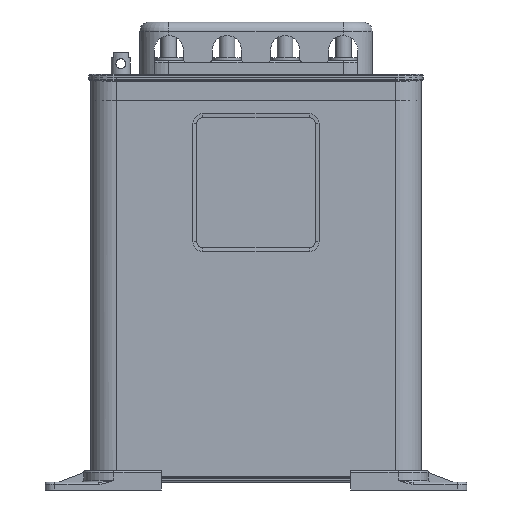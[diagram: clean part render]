
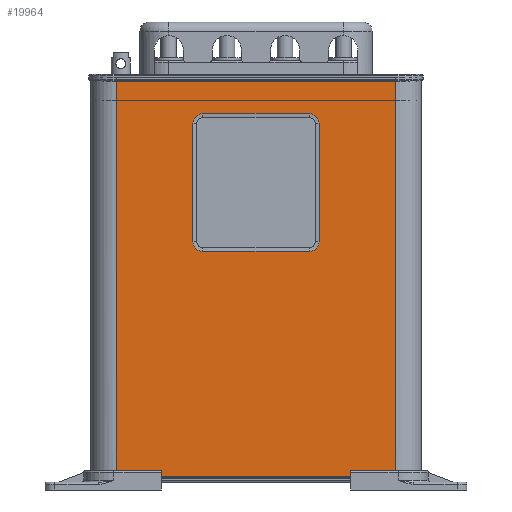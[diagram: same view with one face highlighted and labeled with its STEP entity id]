
A CAD part, front view. The second image highlights one B-rep face of the part: STEP entity #19964.
In plain terms, the highlighted planar face has unit normal (0, -1, 0).
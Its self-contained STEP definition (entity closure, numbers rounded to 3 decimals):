
#947=DIRECTION('',(-1.,0.,0.));
#948=VECTOR('',#947,144.);
#949=CARTESIAN_POINT('',(72.,-44.28,102.4));
#950=LINE('',#949,#948);
#951=DIRECTION('',(-1.,0.,0.));
#952=VECTOR('',#951,23.22);
#953=CARTESIAN_POINT('',(72.,-44.28,-99.28));
#954=LINE('',#953,#952);
#955=DIRECTION('',(0.,0.,1.));
#956=VECTOR('',#955,1.5);
#957=CARTESIAN_POINT('',(48.78,-44.28,-100.78));
#958=LINE('',#957,#956);
#959=DIRECTION('',(0.707,0.,-0.707));
#960=VECTOR('',#959,1.414);
#961=CARTESIAN_POINT('',(48.78,-44.28,-100.78));
#962=LINE('',#961,#960);
#963=DIRECTION('',(-1.,0.,0.));
#964=VECTOR('',#963,22.22);
#965=CARTESIAN_POINT('',(72.,-44.28,-101.78));
#966=LINE('',#965,#964);
#967=DIRECTION('',(1.,0.,0.));
#968=VECTOR('',#967,144.);
#969=CARTESIAN_POINT('',(-72.,-44.28,-102.68));
#970=LINE('',#969,#968);
#971=DIRECTION('',(0.,0.,1.));
#972=VECTOR('',#971,0.9);
#973=CARTESIAN_POINT('',(-72.,-44.28,-102.68));
#974=LINE('',#973,#972);
#975=DIRECTION('',(1.,0.,0.));
#976=VECTOR('',#975,22.22);
#977=CARTESIAN_POINT('',(-72.,-44.28,-101.78));
#978=LINE('',#977,#976);
#979=DIRECTION('',(-0.707,0.,-0.707));
#980=VECTOR('',#979,1.414);
#981=CARTESIAN_POINT('',(-48.78,-44.28,-100.78));
#982=LINE('',#981,#980);
#983=DIRECTION('',(0.,0.,1.));
#984=VECTOR('',#983,1.5);
#985=CARTESIAN_POINT('',(-48.78,-44.28,-100.78));
#986=LINE('',#985,#984);
#987=DIRECTION('',(1.,0.,0.));
#988=VECTOR('',#987,23.22);
#989=CARTESIAN_POINT('',(-72.,-44.28,-99.28));
#990=LINE('',#989,#988);
#991=DIRECTION('',(0.,0.,1.));
#992=VECTOR('',#991,201.68);
#993=CARTESIAN_POINT('',(-72.,-44.28,-99.28));
#994=LINE('',#993,#992);
#995=DIRECTION('',(-1.,0.,0.));
#996=VECTOR('',#995,55.);
#997=CARTESIAN_POINT('',(27.5,-44.28,84.72));
#998=LINE('',#997,#996);
#999=CARTESIAN_POINT('',(-27.5,-44.28,79.72));
#1000=DIRECTION('',(0.,-1.,0.));
#1001=DIRECTION('',(0.,0.,1.));
#1002=AXIS2_PLACEMENT_3D('',#999,#1000,#1001);
#1004=DIRECTION('',(0.,0.,-1.));
#1005=VECTOR('',#1004,61.);
#1006=CARTESIAN_POINT('',(-32.5,-44.28,79.72));
#1007=LINE('',#1006,#1005);
#1008=CARTESIAN_POINT('',(-27.5,-44.28,18.72));
#1009=DIRECTION('',(0.,-1.,0.));
#1010=DIRECTION('',(-1.,0.,0.));
#1011=AXIS2_PLACEMENT_3D('',#1008,#1009,#1010);
#1013=DIRECTION('',(1.,0.,0.));
#1014=VECTOR('',#1013,55.);
#1015=CARTESIAN_POINT('',(-27.5,-44.28,13.72));
#1016=LINE('',#1015,#1014);
#1017=CARTESIAN_POINT('',(27.5,-44.28,18.72));
#1018=DIRECTION('',(0.,-1.,0.));
#1019=DIRECTION('',(0.,0.,-1.));
#1020=AXIS2_PLACEMENT_3D('',#1017,#1018,#1019);
#1022=DIRECTION('',(0.,0.,1.));
#1023=VECTOR('',#1022,61.);
#1024=CARTESIAN_POINT('',(32.5,-44.28,18.72));
#1025=LINE('',#1024,#1023);
#1026=CARTESIAN_POINT('',(27.5,-44.28,79.72));
#1027=DIRECTION('',(0.,-1.,0.));
#1028=DIRECTION('',(1.,0.,0.));
#1029=AXIS2_PLACEMENT_3D('',#1026,#1027,#1028);
#1055=DIRECTION('',(0.,0.,1.));
#1056=VECTOR('',#1055,0.9);
#1057=CARTESIAN_POINT('',(72.,-44.28,-102.68));
#1058=LINE('',#1057,#1056);
#1073=DIRECTION('',(0.,0.,1.));
#1074=VECTOR('',#1073,201.68);
#1075=CARTESIAN_POINT('',(72.,-44.28,-99.28));
#1076=LINE('',#1075,#1074);
#15315=CARTESIAN_POINT('',(27.5,-44.28,84.72));
#15316=CARTESIAN_POINT('',(-27.5,-44.28,84.72));
#15317=VERTEX_POINT('',#15315);
#15318=VERTEX_POINT('',#15316);
#15319=CARTESIAN_POINT('',(-32.5,-44.28,79.72));
#15320=VERTEX_POINT('',#15319);
#15321=CARTESIAN_POINT('',(-32.5,-44.28,18.72));
#15322=VERTEX_POINT('',#15321);
#15323=CARTESIAN_POINT('',(-27.5,-44.28,13.72));
#15324=VERTEX_POINT('',#15323);
#15325=CARTESIAN_POINT('',(27.5,-44.28,13.72));
#15326=VERTEX_POINT('',#15325);
#15327=CARTESIAN_POINT('',(32.5,-44.28,18.72));
#15328=VERTEX_POINT('',#15327);
#15329=CARTESIAN_POINT('',(32.5,-44.28,79.72));
#15330=VERTEX_POINT('',#15329);
#15433=CARTESIAN_POINT('',(-72.,-44.28,-102.68));
#15434=VERTEX_POINT('',#15433);
#15435=CARTESIAN_POINT('',(72.,-44.28,-102.68));
#15436=VERTEX_POINT('',#15435);
#15899=CARTESIAN_POINT('',(-72.,-44.28,-99.28));
#15901=VERTEX_POINT('',#15899);
#15903=CARTESIAN_POINT('',(-72.,-44.28,-101.78));
#15905=VERTEX_POINT('',#15903);
#15906=CARTESIAN_POINT('',(-48.78,-44.28,-99.28));
#15907=VERTEX_POINT('',#15906);
#15908=CARTESIAN_POINT('',(-48.78,-44.28,-100.78));
#15909=VERTEX_POINT('',#15908);
#15910=CARTESIAN_POINT('',(-49.78,-44.28,-101.78));
#15911=VERTEX_POINT('',#15910);
#16319=CARTESIAN_POINT('',(72.,-44.28,-99.28));
#16320=CARTESIAN_POINT('',(48.78,-44.28,-99.28));
#16321=VERTEX_POINT('',#16319);
#16322=VERTEX_POINT('',#16320);
#16323=CARTESIAN_POINT('',(48.78,-44.28,-100.78));
#16324=VERTEX_POINT('',#16323);
#16325=CARTESIAN_POINT('',(72.,-44.28,-101.78));
#16326=CARTESIAN_POINT('',(49.78,-44.28,-101.78));
#16327=VERTEX_POINT('',#16325);
#16328=VERTEX_POINT('',#16326);
#16976=CARTESIAN_POINT('',(-72.,-44.28,102.4));
#16977=VERTEX_POINT('',#16976);
#16980=CARTESIAN_POINT('',(72.,-44.28,102.4));
#16981=VERTEX_POINT('',#16980);
#19913=CARTESIAN_POINT('',(-72.,-44.28,104.72));
#19914=DIRECTION('',(0.,-1.,0.));
#19915=DIRECTION('',(0.,0.,-1.));
#19916=AXIS2_PLACEMENT_3D('',#19913,#19914,#19915);
#19917=PLANE('',#19916);
#19919=ORIENTED_EDGE('',*,*,#19918,.F.);
#19921=ORIENTED_EDGE('',*,*,#19920,.F.);
#19923=ORIENTED_EDGE('',*,*,#19922,.T.);
#19925=ORIENTED_EDGE('',*,*,#19924,.F.);
#19927=ORIENTED_EDGE('',*,*,#19926,.T.);
#19929=ORIENTED_EDGE('',*,*,#19928,.F.);
#19931=ORIENTED_EDGE('',*,*,#19930,.F.);
#19933=ORIENTED_EDGE('',*,*,#19932,.F.);
#19934=ORIENTED_EDGE('',*,*,#19900,.T.);
#19936=ORIENTED_EDGE('',*,*,#19935,.T.);
#19938=ORIENTED_EDGE('',*,*,#19937,.F.);
#19940=ORIENTED_EDGE('',*,*,#19939,.T.);
#19942=ORIENTED_EDGE('',*,*,#19941,.F.);
#19943=ORIENTED_EDGE('',*,*,#19892,.T.);
#19944=EDGE_LOOP('',(#19919,#19921,#19923,#19925,#19927,#19929,#19931,#19933,
#19934,#19936,#19938,#19940,#19942,#19943));
#19945=FACE_OUTER_BOUND('',#19944,.F.);
#19947=ORIENTED_EDGE('',*,*,#19946,.T.);
#19949=ORIENTED_EDGE('',*,*,#19948,.T.);
#19951=ORIENTED_EDGE('',*,*,#19950,.T.);
#19953=ORIENTED_EDGE('',*,*,#19952,.T.);
#19955=ORIENTED_EDGE('',*,*,#19954,.T.);
#19957=ORIENTED_EDGE('',*,*,#19956,.T.);
#19959=ORIENTED_EDGE('',*,*,#19958,.T.);
#19961=ORIENTED_EDGE('',*,*,#19960,.T.);
#19962=EDGE_LOOP('',(#19947,#19949,#19951,#19953,#19955,#19957,#19959,#19961));
#19963=FACE_BOUND('',#19962,.F.);
#19964=ADVANCED_FACE('',(#19945,#19963),#19917,.T.);
#1003=CIRCLE('',#1002,5.);
#1012=CIRCLE('',#1011,5.);
#1021=CIRCLE('',#1020,5.);
#1030=CIRCLE('',#1029,5.);
#19892=EDGE_CURVE('',#15901,#16977,#994,.T.);
#19900=EDGE_CURVE('',#15434,#15905,#974,.T.);
#19918=EDGE_CURVE('',#16981,#16977,#950,.T.);
#19920=EDGE_CURVE('',#16321,#16981,#1076,.T.);
#19922=EDGE_CURVE('',#16321,#16322,#954,.T.);
#19924=EDGE_CURVE('',#16324,#16322,#958,.T.);
#19926=EDGE_CURVE('',#16324,#16328,#962,.T.);
#19928=EDGE_CURVE('',#16327,#16328,#966,.T.);
#19930=EDGE_CURVE('',#15436,#16327,#1058,.T.);
#19932=EDGE_CURVE('',#15434,#15436,#970,.T.);
#19935=EDGE_CURVE('',#15905,#15911,#978,.T.);
#19937=EDGE_CURVE('',#15909,#15911,#982,.T.);
#19939=EDGE_CURVE('',#15909,#15907,#986,.T.);
#19941=EDGE_CURVE('',#15901,#15907,#990,.T.);
#19946=EDGE_CURVE('',#15317,#15318,#998,.T.);
#19948=EDGE_CURVE('',#15318,#15320,#1003,.T.);
#19950=EDGE_CURVE('',#15320,#15322,#1007,.T.);
#19952=EDGE_CURVE('',#15322,#15324,#1012,.T.);
#19954=EDGE_CURVE('',#15324,#15326,#1016,.T.);
#19956=EDGE_CURVE('',#15326,#15328,#1021,.T.);
#19958=EDGE_CURVE('',#15328,#15330,#1025,.T.);
#19960=EDGE_CURVE('',#15330,#15317,#1030,.T.);
